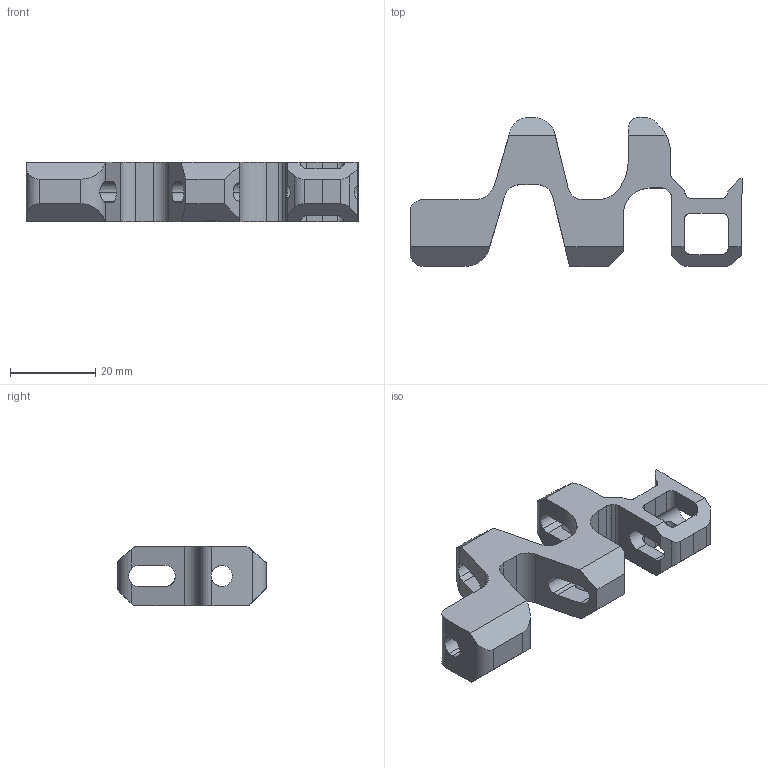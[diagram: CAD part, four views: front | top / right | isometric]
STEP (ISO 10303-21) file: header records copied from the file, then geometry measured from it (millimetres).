
FILE_DESCRIPTION(('CATIA V5 STEP Exchange'),'2;1');
FILE_NAME('C:\Users\ALI OZGUN\Desktop\alhan\940B01K10-sol.stp','2017-08-22T12:05:31+00:00',('none'),('none'),'CATIA Version 5 Release 21 GA (IN-10)','CATIA V5 STEP AP203','none');
FILE_SCHEMA(('CONFIG_CONTROL_DESIGN'));
Length unit declared in the file: millimetre
Products named in the file (1): 940B01K10-sol
Bounding box: 78 x 35 x 14 mm (x, y, z)
Volume: 10879.2 mm3; surface area: 7757.9 mm2
Topology: 1 solids, 1 shells, 171 faces, 561 edges, 374 vertices
Faces by surface type: plane 93, cylinder 70, extrusion 8
Entity records: 6340 total; most frequent: CARTESIAN_POINT 1772, ORIENTED_EDGE 1122, DIRECTION 686, EDGE_CURVE 561, VERTEX_POINT 374, VECTOR 352, LINE 344, AXIS2_PLACEMENT_3D 217
